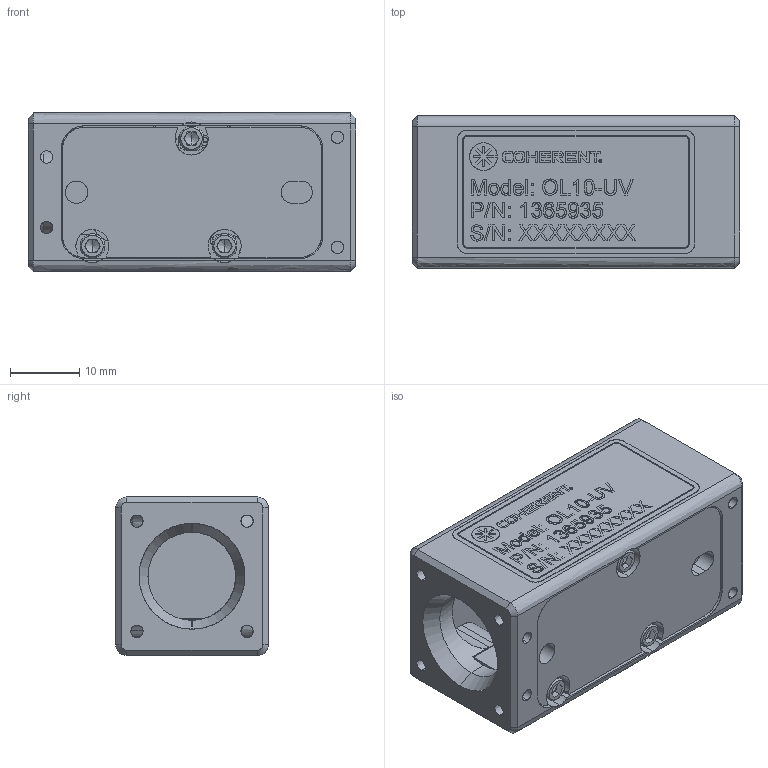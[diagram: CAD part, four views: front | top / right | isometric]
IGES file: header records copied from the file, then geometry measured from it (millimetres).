
Start section: SolidWorks IGES file using analytic representation for surfaces
Bounding box: 47.22 x 21.97 x 22.94 mm (x, y, z)
Surface area: 9706.8 mm2 (no closed solid volume)
Topology: 0 solids, 0 shells, 383 faces, 9269 edges, 9263 vertices
Faces by surface type: bspline 275, revolution 108
